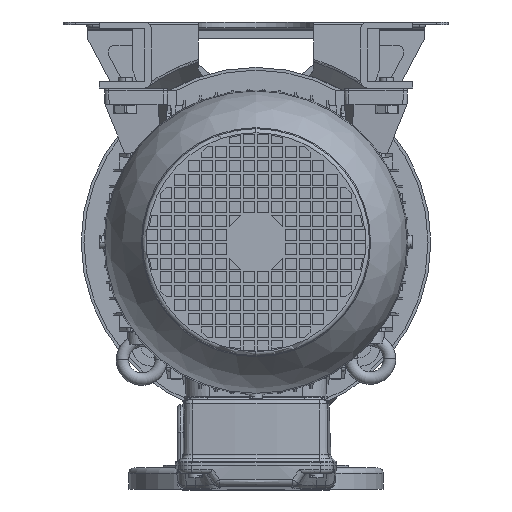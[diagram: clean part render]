
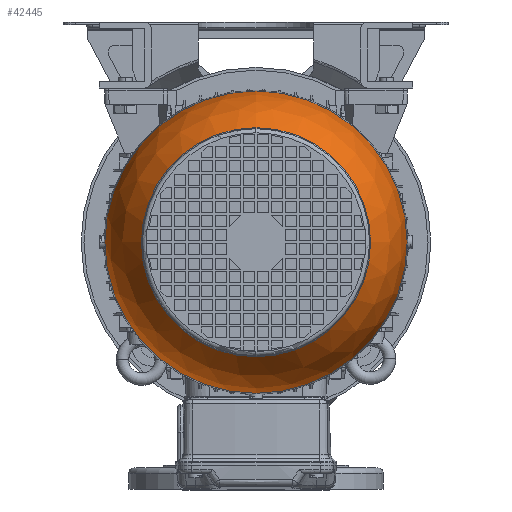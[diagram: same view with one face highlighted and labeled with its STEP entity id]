
A CAD part, front view. The second image highlights one B-rep face of the part: STEP entity #42445.
In plain terms, the highlighted spherical face has radius 109.795 mm.
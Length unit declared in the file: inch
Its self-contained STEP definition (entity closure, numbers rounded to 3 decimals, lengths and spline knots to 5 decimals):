
#180 = AXIS2_PLACEMENT_3D ( 'NONE', #139858, #156088, #5801 ) ;
#4623 = ORIENTED_EDGE ( 'NONE', *, *, #100073, .T. ) ;
#5801 = DIRECTION ( 'NONE',  ( 0., -1., 0. ) ) ;
#9895 = CARTESIAN_POINT ( 'NONE',  ( -7.40796, -3.27661, 0. ) ) ;
#20205 = FACE_BOUND ( 'NONE', #157663, .T. ) ;
#25348 = ORIENTED_EDGE ( 'NONE', *, *, #84692, .T. ) ;
#26848 = DIRECTION ( 'NONE',  ( 0., -1., 0. ) ) ;
#42445 = ADVANCED_FACE ( 'NONE', ( #20205, #160485 ), #104417, .T. ) ;
#44989 = EDGE_CURVE ( 'NONE', #79627, #65033, #139657, .T. ) ;
#50958 = DIRECTION ( 'NONE',  ( 1., 0., 0. ) ) ;
#53548 = CARTESIAN_POINT ( 'NONE',  ( -4.70174, 0., 0. ) ) ;
#57941 = CIRCLE ( 'NONE', #180, 4.32114 ) ;
#59324 = CIRCLE ( 'NONE', #140363, 3.27661 ) ;
#65033 = VERTEX_POINT ( 'NONE', #9895 ) ;
#65446 = CARTESIAN_POINT ( 'NONE',  ( -4.58858, 0., 0. ) ) ;
#67046 = CARTESIAN_POINT ( 'NONE',  ( -7.40796, 0., 0. ) ) ;
#68647 = CARTESIAN_POINT ( 'NONE',  ( -4.70174, 4.32114, 0. ) ) ;
#79627 = VERTEX_POINT ( 'NONE', #130627 ) ;
#83511 = CIRCLE ( 'NONE', #141240, 4.32114 ) ;
#84692 = EDGE_CURVE ( 'NONE', #90207, #101344, #57941, .T. ) ;
#90207 = VERTEX_POINT ( 'NONE', #138011 ) ;
#91281 = ORIENTED_EDGE ( 'NONE', *, *, #44989, .F. ) ;
#94686 = EDGE_CURVE ( 'NONE', #65033, #79627, #59324, .T. ) ;
#100073 = EDGE_CURVE ( 'NONE', #101344, #90207, #83511, .T. ) ;
#101344 = VERTEX_POINT ( 'NONE', #68647 ) ;
#102773 = EDGE_LOOP ( 'NONE', ( #4623, #25348 ) ) ;
#104417 = SPHERICAL_SURFACE ( 'NONE', #142145, 4.32262 ) ;
#107746 = AXIS2_PLACEMENT_3D ( 'NONE', #151773, #139110, #26848 ) ;
#117107 = DIRECTION ( 'NONE',  ( 0., -1., 0. ) ) ;
#123188 = DIRECTION ( 'NONE',  ( 0., -1., 0. ) ) ;
#130627 = CARTESIAN_POINT ( 'NONE',  ( -7.40796, 3.27661, 0. ) ) ;
#138011 = CARTESIAN_POINT ( 'NONE',  ( -4.70174, -4.32114, 0. ) ) ;
#139110 = DIRECTION ( 'NONE',  ( -1., 0., 0. ) ) ;
#139657 = CIRCLE ( 'NONE', #107746, 3.27661 ) ;
#139858 = CARTESIAN_POINT ( 'NONE',  ( -4.70174, 0., 0. ) ) ;
#140363 = AXIS2_PLACEMENT_3D ( 'NONE', #67046, #162994, #123188 ) ;
#141240 = AXIS2_PLACEMENT_3D ( 'NONE', #53548, #164845, #166630 ) ;
#142145 = AXIS2_PLACEMENT_3D ( 'NONE', #65446, #50958, #117107 ) ;
#151773 = CARTESIAN_POINT ( 'NONE',  ( -7.40796, 0., 0. ) ) ;
#156088 = DIRECTION ( 'NONE',  ( -1., 0., 0. ) ) ;
#157663 = EDGE_LOOP ( 'NONE', ( #178846, #91281 ) ) ;
#160485 = FACE_OUTER_BOUND ( 'NONE', #102773, .T. ) ;
#162994 = DIRECTION ( 'NONE',  ( -1., 0., 0. ) ) ;
#164845 = DIRECTION ( 'NONE',  ( -1., 0., 0. ) ) ;
#166630 = DIRECTION ( 'NONE',  ( 0., -1., 0. ) ) ;
#178846 = ORIENTED_EDGE ( 'NONE', *, *, #94686, .F. ) ;
